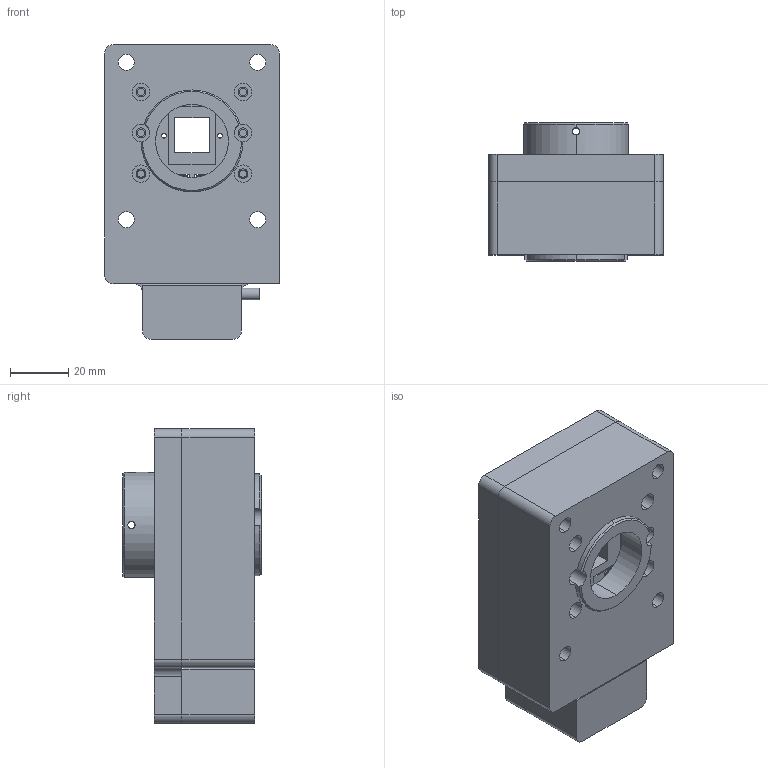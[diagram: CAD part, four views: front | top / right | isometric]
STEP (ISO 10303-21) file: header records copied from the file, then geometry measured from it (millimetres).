
FILE_DESCRIPTION (( 'STEP AP203' ), '1' );
FILE_NAME ('XD108.40S-B1-ぜ嘛-笯峎隴-24.01.09.STEP', '2024-01-09T02:17:12', ( '' ), ( '' ), 'SwSTEP 2.0', 'SolidWorks 2016', '' );
FILE_SCHEMA (( 'CONFIG_CONTROL_DESIGN' ));
Length unit declared in the file: millimetre
Products named in the file (1): XD108.40S-B1-ぜ嘛-笯峎隴-24.01.09
Bounding box: 60 x 47.52 x 101 mm (x, y, z)
Volume: 161198.1 mm3; surface area: 61482 mm2
Topology: 20 solids, 20 shells, 812 faces, 2038 edges, 1270 vertices
Faces by surface type: plane 404, cylinder 280, cone 108, torus 20
Entity records: 24387 total; most frequent: CARTESIAN_POINT 4494, DIRECTION 4275, ORIENTED_EDGE 3960, EDGE_CURVE 1980, AXIS2_PLACEMENT_3D 1522, VERTEX_POINT 1270, LINE 1231, VECTOR 1231
